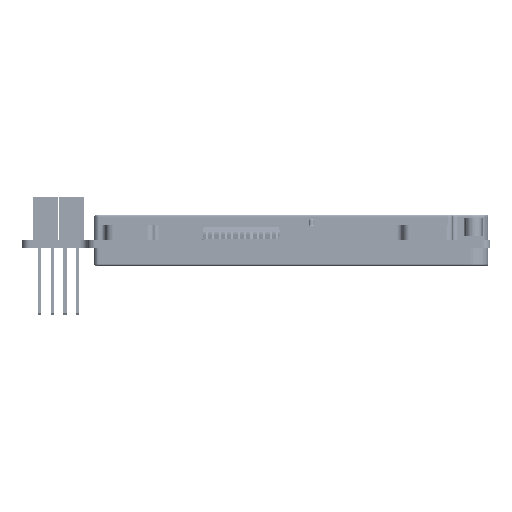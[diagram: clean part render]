
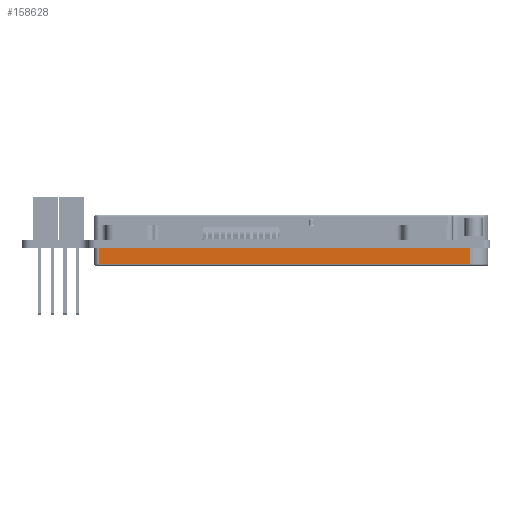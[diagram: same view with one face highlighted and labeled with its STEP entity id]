
A CAD part, left-side view. The second image highlights one B-rep face of the part: STEP entity #158628.
In plain terms, the highlighted planar face has unit normal (-1, 0, 0).
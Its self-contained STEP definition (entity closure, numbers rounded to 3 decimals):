
#10797 = VECTOR ( 'NONE', #114975, 1000. ) ;
#17463 = DIRECTION ( 'NONE',  ( -1., 0., 0. ) ) ;
#17805 = VERTEX_POINT ( 'NONE', #260122 ) ;
#47911 = DIRECTION ( 'NONE',  ( 0., 0., -1. ) ) ;
#49983 = CARTESIAN_POINT ( 'NONE',  ( 0., -74.85, 3.5 ) ) ;
#51427 = LINE ( 'NONE', #49983, #10797 ) ;
#58890 = FACE_OUTER_BOUND ( 'NONE', #109423, .T. ) ;
#74106 = AXIS2_PLACEMENT_3D ( 'NONE', #148932, #17463, #283517 ) ;
#75300 = DIRECTION ( 'NONE',  ( 0., 0., -1. ) ) ;
#80045 = VECTOR ( 'NONE', #47911, 1000. ) ;
#83592 = LINE ( 'NONE', #241690, #257157 ) ;
#93031 = ORIENTED_EDGE ( 'NONE', *, *, #145329, .T. ) ;
#102841 = DIRECTION ( 'NONE',  ( 0., -1., 0. ) ) ;
#105783 = EDGE_CURVE ( 'NONE', #238590, #17805, #187600, .T. ) ;
#109013 = EDGE_CURVE ( 'NONE', #137608, #17805, #83592, .T. ) ;
#109423 = EDGE_LOOP ( 'NONE', ( #93031, #238949, #185688, #289688 ) ) ;
#114975 = DIRECTION ( 'NONE',  ( 0., 1., 0. ) ) ;
#125955 = VECTOR ( 'NONE', #75300, 1000. ) ;
#137608 = VERTEX_POINT ( 'NONE', #163577 ) ;
#145329 = EDGE_CURVE ( 'NONE', #179987, #137608, #226698, .T. ) ;
#148932 = CARTESIAN_POINT ( 'NONE',  ( 0., -74.85, 3.5 ) ) ;
#158628 = ADVANCED_FACE ( 'NONE', ( #58890 ), #218382, .T. ) ;
#163577 = CARTESIAN_POINT ( 'NONE',  ( 0., -1., 0.3 ) ) ;
#165327 = CARTESIAN_POINT ( 'NONE',  ( 0., -1., 3.5 ) ) ;
#179987 = VERTEX_POINT ( 'NONE', #165327 ) ;
#185688 = ORIENTED_EDGE ( 'NONE', *, *, #105783, .F. ) ;
#187600 = LINE ( 'NONE', #277819, #125955 ) ;
#202350 = CARTESIAN_POINT ( 'NONE',  ( 0., -74.85, 3.5 ) ) ;
#218382 = PLANE ( 'NONE',  #74106 ) ;
#226698 = LINE ( 'NONE', #250307, #80045 ) ;
#238590 = VERTEX_POINT ( 'NONE', #202350 ) ;
#238949 = ORIENTED_EDGE ( 'NONE', *, *, #109013, .T. ) ;
#241690 = CARTESIAN_POINT ( 'NONE',  ( 0., -74.85, 0.3 ) ) ;
#250307 = CARTESIAN_POINT ( 'NONE',  ( 0., -1., 3.5 ) ) ;
#257157 = VECTOR ( 'NONE', #102841, 1000. ) ;
#260122 = CARTESIAN_POINT ( 'NONE',  ( 0., -74.85, 0.3 ) ) ;
#267649 = EDGE_CURVE ( 'NONE', #238590, #179987, #51427, .T. ) ;
#277819 = CARTESIAN_POINT ( 'NONE',  ( 0., -74.85, 3.5 ) ) ;
#283517 = DIRECTION ( 'NONE',  ( 0., 0., 1. ) ) ;
#289688 = ORIENTED_EDGE ( 'NONE', *, *, #267649, .T. ) ;
